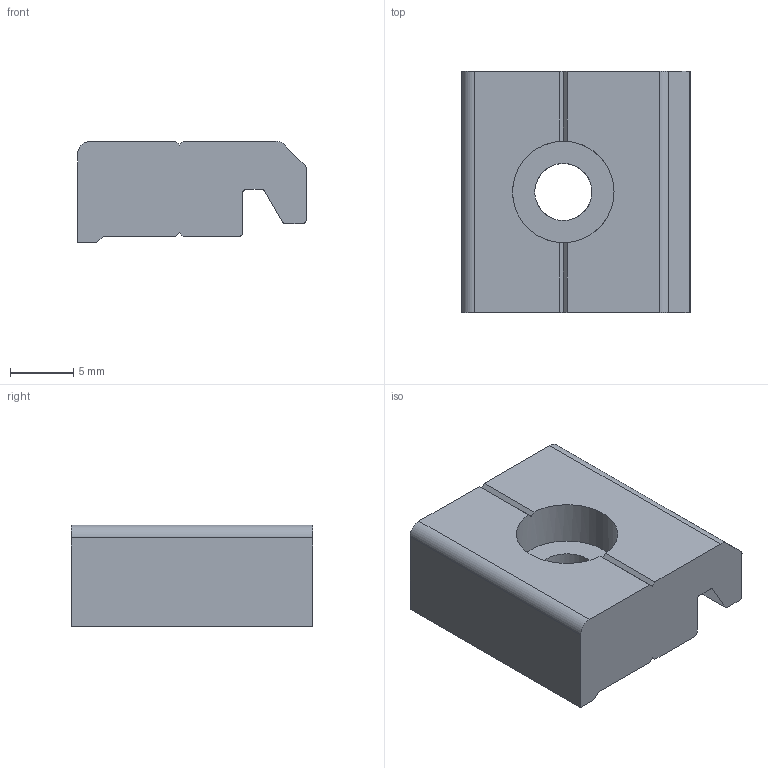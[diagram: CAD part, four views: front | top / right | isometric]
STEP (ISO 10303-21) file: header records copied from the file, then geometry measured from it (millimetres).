
FILE_DESCRIPTION(('STEP AP214'),'1');
FILE_NAME('SL1H-L19.stp','2016-10-19T01:15:19',(' '),(' '),'Spatial InterOp 3D',' ',' ');
FILE_SCHEMA(('automotive_design'));
Length unit declared in the file: millimetre
Products named in the file (1): SL1H-L19
Bounding box: 18 x 19 x 8 mm (x, y, z)
Volume: 2077.7 mm3; surface area: 1385.8 mm2
Topology: 1 solids, 1 shells, 35 faces, 100 edges, 66 vertices
Faces by surface type: plane 25, cylinder 10
Full cylindrical faces by diameter (mm): 4.5 x1, 8 x1
Entity records: 1438 total; most frequent: CARTESIAN_POINT 200, DIRECTION 200, ORIENTED_EDGE 196, EDGE_CURVE 98, LINE 68, VECTOR 68, AXIS2_PLACEMENT_3D 66, VERTEX_POINT 66
